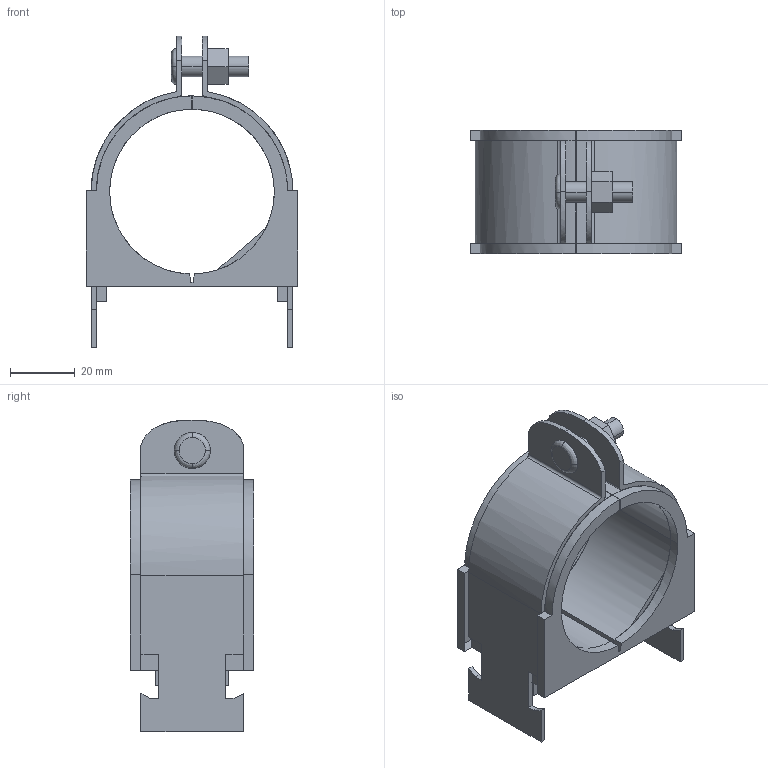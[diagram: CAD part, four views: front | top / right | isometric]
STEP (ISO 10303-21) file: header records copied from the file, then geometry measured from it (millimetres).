
FILE_DESCRIPTION(('TurboCAD Mac Pro'),'Build 980');
FILE_NAME('032N036.stp',' ',(''),(''),'ACIS Interop','IMSI','TurboCAD Mac Pro BY IMSI, INCORPORATED');
FILE_SCHEMA(('automotive_design'));
Length unit declared in the file: inch
Products named in the file (3): 1; 2; 3
Bounding box: 65.4 x 38.1 x 96.27 mm (x, y, z)
Volume: 53908.3 mm3; surface area: 32551.7 mm2
Topology: 3 solids, 3 shells, 146 faces, 380 edges, 244 vertices
Faces by surface type: plane 100, bspline 46
Entity records: 6946 total; most frequent: CARTESIAN_POINT 1715, ORIENTED_EDGE 760, DIRECTION 490, EDGE_CURVE 380, STYLED_ITEM 301, PRESENTATION_STYLE_ASSIGNMENT 301, COLOUR_RGB 301, LINE 276
